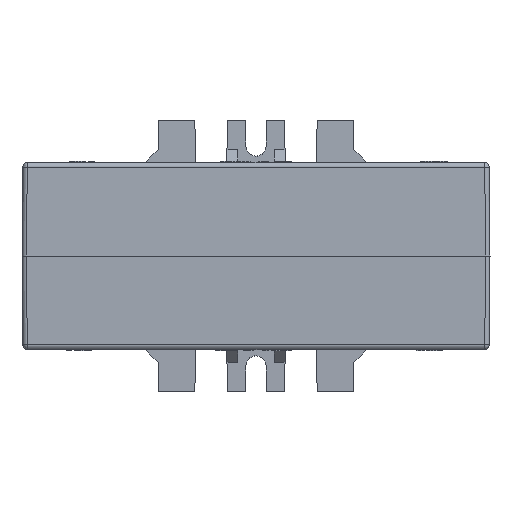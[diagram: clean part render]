
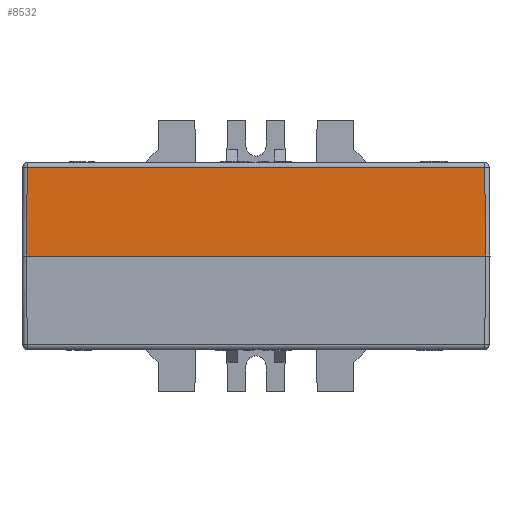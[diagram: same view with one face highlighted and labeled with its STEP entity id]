
A CAD part, front view. The second image highlights one B-rep face of the part: STEP entity #8532.
In plain terms, the highlighted planar face has unit normal (0, -1, 0.009).
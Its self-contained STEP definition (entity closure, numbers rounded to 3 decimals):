
#608=LINE('',#33126,#3131);
#769=LINE('',#33578,#3292);
#802=LINE('',#33641,#3325);
#804=LINE('',#33644,#3327);
#3131=VECTOR('',#26692,1.);
#3292=VECTOR('',#27063,1.);
#3325=VECTOR('',#27124,1.);
#3327=VECTOR('',#27128,1.);
#5748=FACE_OUTER_BOUND('',#10224,.T.);
#7582=PLANE('',#24866);
#8532=ADVANCED_FACE('',(#5748),#7582,.F.);
#10224=EDGE_LOOP('',(#12272,#12273,#12274,#12275));
#12272=ORIENTED_EDGE('',*,*,#21262,.F.);
#12273=ORIENTED_EDGE('',*,*,#21297,.T.);
#12274=ORIENTED_EDGE('',*,*,#21064,.T.);
#12275=ORIENTED_EDGE('',*,*,#21295,.F.);
#18654=VERTEX_POINT('',#33101);
#18658=VERTEX_POINT('',#33127);
#18782=VERTEX_POINT('',#33551);
#18786=VERTEX_POINT('',#33577);
#21064=EDGE_CURVE('',#18658,#18654,#608,.T.);
#21262=EDGE_CURVE('',#18786,#18782,#769,.T.);
#21295=EDGE_CURVE('',#18782,#18654,#802,.T.);
#21297=EDGE_CURVE('',#18786,#18658,#804,.T.);
#24866=AXIS2_PLACEMENT_3D('',#33645,#27129,#27130);
#26692=DIRECTION('',(-0.009,0.009,1.));
#27063=DIRECTION('',(0.009,0.009,1.));
#27124=DIRECTION('',(1.,0.,0.));
#27128=DIRECTION('',(1.,0.,0.));
#27129=DIRECTION('',(0.,1.,-0.009));
#27130=DIRECTION('',(0.,0.009,1.));
#33101=CARTESIAN_POINT('',(-856.104,-69.612,-4.078));
#33126=CARTESIAN_POINT('',(-855.956,-69.761,-21.087));
#33127=CARTESIAN_POINT('',(-855.956,-69.761,-21.087));
#33551=CARTESIAN_POINT('',(-943.896,-69.612,-4.078));
#33577=CARTESIAN_POINT('',(-944.044,-69.761,-21.087));
#33578=CARTESIAN_POINT('',(-944.044,-69.761,-21.087));
#33641=CARTESIAN_POINT('',(-1013.644,-69.612,-4.078));
#33644=CARTESIAN_POINT('',(-1013.644,-69.761,-21.087));
#33645=CARTESIAN_POINT('',(-1013.644,-69.761,-21.087));
